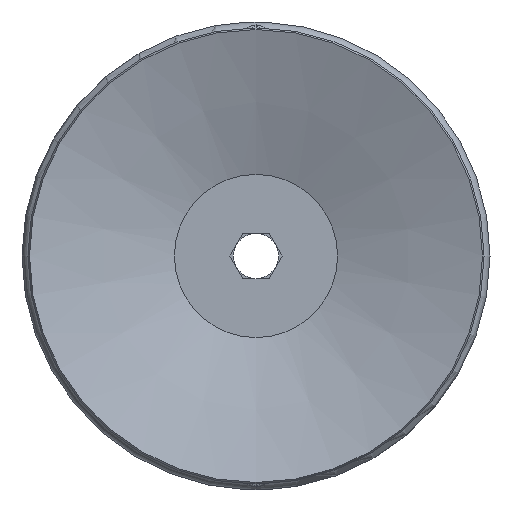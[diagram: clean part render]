
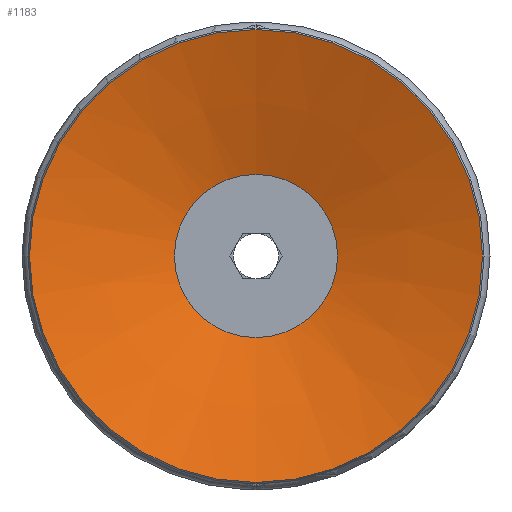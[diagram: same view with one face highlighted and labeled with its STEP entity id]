
A CAD part, front view. The second image highlights one B-rep face of the part: STEP entity #1183.
In plain terms, the highlighted conical face has half-angle 71.075 degrees and reference radius 15 mm.
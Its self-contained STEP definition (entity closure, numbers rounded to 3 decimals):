
#1183=ADVANCED_FACE('',(#2927,#2928),#2929,.F.);
#2927=FACE_BOUND('',#5310,.T.);
#2928=FACE_OUTER_BOUND('',#5311,.T.);
#2929=CONICAL_SURFACE('',#5312,15.0,1.24);
#5310=EDGE_LOOP('',(#8715));
#5311=EDGE_LOOP('',(#8716));
#5312=AXIS2_PLACEMENT_3D('',#8717,#8718,#8719);
#8715=ORIENTED_EDGE('',*,*,#15486,.T.);
#8716=ORIENTED_EDGE('',*,*,#15487,.T.);
#8717=CARTESIAN_POINT('',(0.,0.,0.0));
#8718=DIRECTION('',(0.0,0.,-1.0));
#8719=DIRECTION('',(0.0,1.0,0.));
#15486=EDGE_CURVE('',#19084,#19084,#19085,.T.);
#15487=EDGE_CURVE('',#19086,#19086,#19087,.T.);
#19084=VERTEX_POINT('',#25253);
#19085=CIRCLE('',#25254,5.4);
#19086=VERTEX_POINT('',#25255);
#19087=CIRCLE('',#25256,15.0);
#25253=CARTESIAN_POINT('',(-5.4,0.,3.291));
#25254=AXIS2_PLACEMENT_3D('',#30637,#30638,#30639);
#25255=CARTESIAN_POINT('',(0.,15.0,0.));
#25256=AXIS2_PLACEMENT_3D('',#30640,#30641,#30642);
#30637=CARTESIAN_POINT('',(0.,0.,3.291));
#30638=DIRECTION('',(0.,0.0,1.0));
#30639=DIRECTION('',(-1.0,0.0,0.));
#30640=CARTESIAN_POINT('',(0.,0.,0.0));
#30641=DIRECTION('',(0.0,0.,-1.0));
#30642=DIRECTION('',(0.0,1.0,0.));
